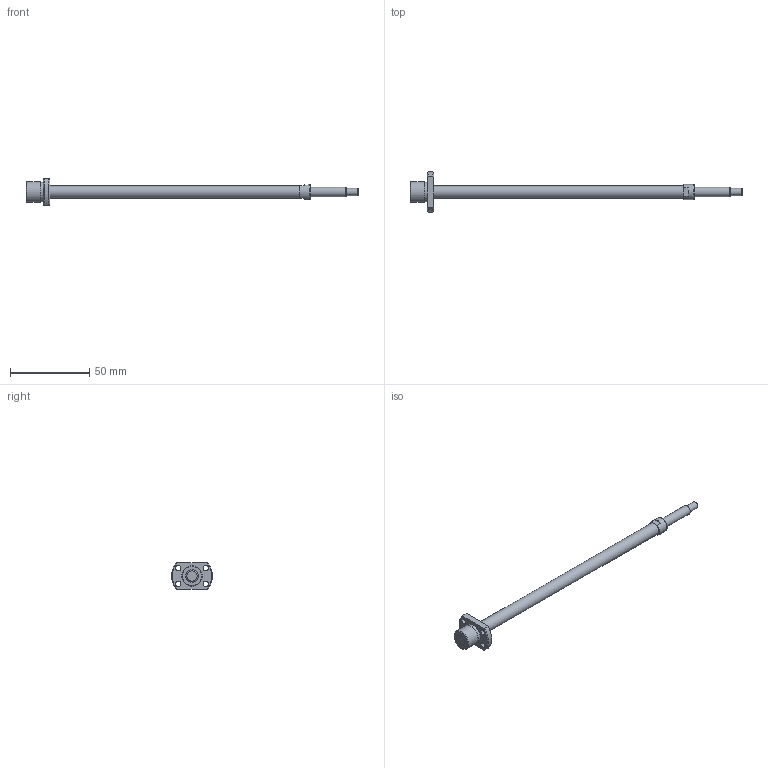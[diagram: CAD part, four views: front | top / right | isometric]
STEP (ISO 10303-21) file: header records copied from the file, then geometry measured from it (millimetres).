
FILE_DESCRIPTION( ( 'STEP AP203' ), '1' );
FILE_NAME( 'e:/temp/worker_98/temp/exporttempdir_5216_1253_guvyN/format_0/PSRT0801K-169R210C5A0X(A0).stp', '2021-10-19T08:15:24', ( 'License CC BY-ND 4.0' ), ( 'CADENAS' ), ' ', 'PARTsolutions', ' ' );
FILE_SCHEMA( ( 'CONFIG_CONTROL_DESIGN' ) );
Length unit declared in the file: millimetre
Products named in the file (3): PSRT0801K-169R210C5A0X(A0); _PSRT0801KA_shaft; _PSR0801K_nut
Assembly tree (2 placements, depth 2):
  PSRT0801K-169R210C5A0X(A0)
    _PSRT0801KA_shaft
    _PSR0801K_nut
Bounding box: 210 x 25.92 x 17 mm (x, y, z)
Volume: 12084.5 mm3; surface area: 7124.9 mm2
Topology: 2 solids, 2 shells, 39 faces, 84 edges, 53 vertices
Faces by surface type: plane 16, cylinder 13, cone 9, torus 1
Full cylindrical faces by diameter (mm): 3.4 x4, 4.5 x1, 6 x1, 8 x2, 9.5 x1, 12.6 x1, 13 x1
Entity records: 1108 total; most frequent: CARTESIAN_POINT 184, DIRECTION 182, ORIENTED_EDGE 132, AXIS2_PLACEMENT_3D 82, EDGE_LOOP 70, EDGE_CURVE 66, VERTEX_POINT 52, FACE_OUTER_BOUND 51
